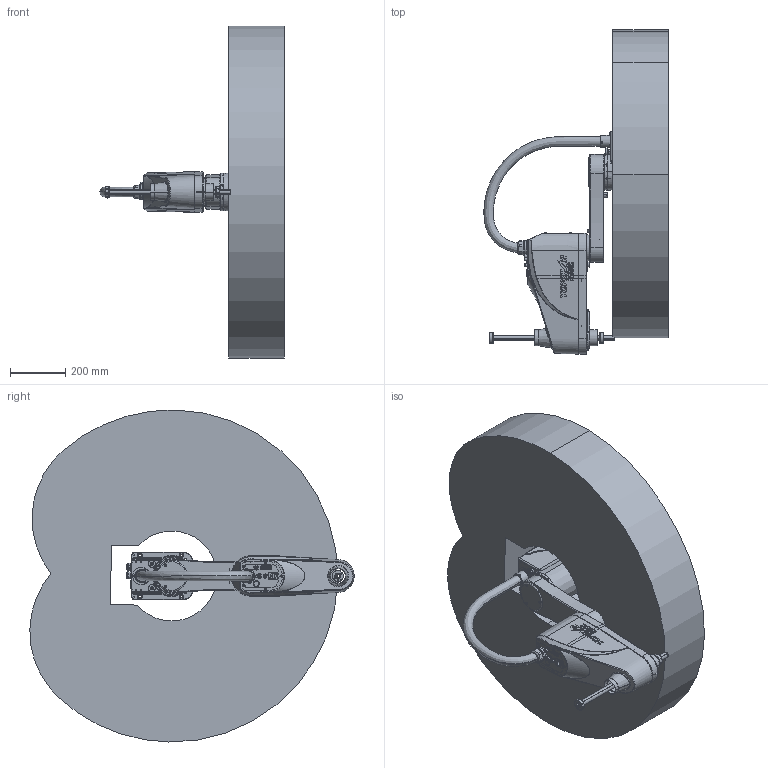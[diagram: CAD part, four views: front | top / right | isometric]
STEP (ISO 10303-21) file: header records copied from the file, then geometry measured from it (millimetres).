
FILE_DESCRIPTION (( 'STEP AP203' ), '1' );
FILE_NAME ('TRH005-600-200-S.STEP', '2025-01-18T00:44:23', ( 'Windows User' ), ( 'P R C' ), 'SwSTEP 2.0', 'SolidWorks 2023', '' );
FILE_SCHEMA (( 'CONFIG_CONTROL_DESIGN' ));
Length unit declared in the file: millimetre
Products named in the file (7): 复件 600S_运动范围^TRH005-600-200-S可拖动机器人（SW2023）; 复件 600S_5^TRH005-600-200-S可拖动机器人（SW2023）; 复件 600S_3^TRH005-600-200-S可拖动机器人（SW2023）; 复件 600S_4^TRH005-600-200-S可拖动机器人（SW2023）; TRH005-600-200-S; 复件 600S_1^TRH005-600-200-S可拖动机器人（SW2023）; 复件 复件 600S_2^TRH005-600-200-S可拖动机器人（SW2023）
Assembly tree (6 placements, depth 2):
  TRH005-600-200-S
    复件 600S_1^TRH005-600-200-S可拖动机器人（SW2023）
    复件 复件 600S_2^TRH005-600-200-S可拖动机器人（SW2023）
    复件 600S_3^TRH005-600-200-S可拖动机器人（SW2023）
    复件 600S_4^TRH005-600-200-S可拖动机器人（SW2023）
    复件 600S_5^TRH005-600-200-S可拖动机器人（SW2023）
    复件 600S_运动范围^TRH005-600-200-S可拖动机器人（SW2023）
Bounding box: 666.51 x 1171.93 x 1199.76 mm (x, y, z)
Volume: 196566296.1 mm3; surface area: 4118642.6 mm2
Topology: 7 solids, 195 shells, 2549 faces, 7718 edges, 5292 vertices
Faces by surface type: cylinder 993, plane 930, cone 304, bspline 193, torus 109, sphere 20
Entity records: 121065 total; most frequent: CARTESIAN_POINT 52519, DIRECTION 14246, ORIENTED_EDGE 12916, EDGE_CURVE 7590, AXIS2_PLACEMENT_3D 5357, VERTEX_POINT 5292, VECTOR 3532, LINE 3532
